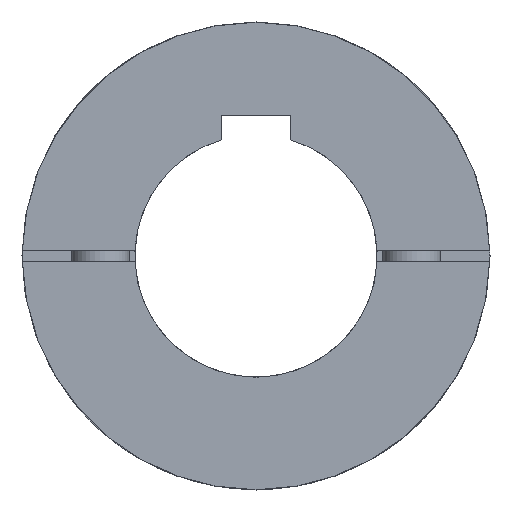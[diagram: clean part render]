
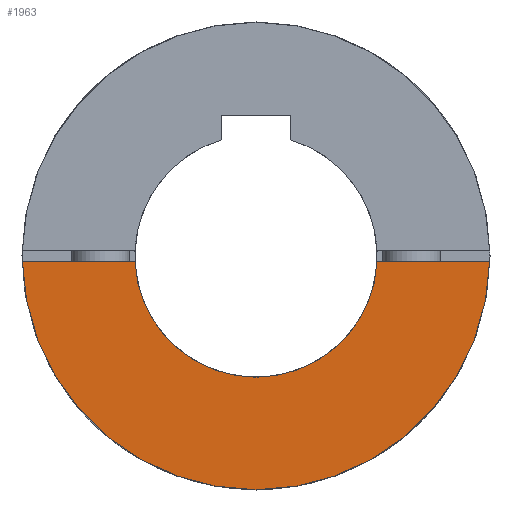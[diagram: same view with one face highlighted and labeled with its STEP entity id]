
A CAD part, left-side view. The second image highlights one B-rep face of the part: STEP entity #1963.
In plain terms, the highlighted planar face has unit normal (-1, 0, 0).
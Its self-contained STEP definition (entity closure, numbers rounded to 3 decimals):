
#24=PLANE('',#2224);
#199=LINE('',#3612,#342);
#202=LINE('',#3618,#345);
#342=VECTOR('',#2695,33.559);
#345=VECTOR('',#2700,33.559);
#505=FACE_OUTER_BOUND('',#631,.T.);
#631=EDGE_LOOP('',(#1592,#1593,#1594,#1595));
#855=CIRCLE('',#2213,21.);
#857=CIRCLE('',#2225,40.5);
#989=VERTEX_POINT('',#3567);
#990=VERTEX_POINT('',#3568);
#1001=VERTEX_POINT('',#3611);
#1003=VERTEX_POINT('',#3617);
#1221=EDGE_CURVE('',#989,#990,#855,.T.);
#1244=EDGE_CURVE('',#1001,#989,#199,.T.);
#1247=EDGE_CURVE('',#1003,#990,#202,.T.);
#1248=EDGE_CURVE('',#1003,#1001,#857,.T.);
#1592=ORIENTED_EDGE('',*,*,#1221,.T.);
#1593=ORIENTED_EDGE('',*,*,#1247,.F.);
#1594=ORIENTED_EDGE('',*,*,#1248,.T.);
#1595=ORIENTED_EDGE('',*,*,#1244,.T.);
#1963=ADVANCED_FACE('',(#505),#24,.T.);
#2213=AXIS2_PLACEMENT_3D('',#3569,#2652,#2653);
#2224=AXIS2_PLACEMENT_3D('',#3616,#2698,#2699);
#2225=AXIS2_PLACEMENT_3D('',#3619,#2701,#2702);
#2652=DIRECTION('center_axis',(1.,0.,0.));
#2653=DIRECTION('ref_axis',(0.,0.,1.));
#2695=DIRECTION('',(0.,1.,0.));
#2698=DIRECTION('center_axis',(-1.,0.,0.));
#2699=DIRECTION('ref_axis',(0.,-1.,0.));
#2700=DIRECTION('',(0.,-1.,0.));
#2701=DIRECTION('center_axis',(-1.,0.,0.));
#2702=DIRECTION('ref_axis',(0.,1.,0.));
#3567=CARTESIAN_POINT('',(0.,-20.976,-1.));
#3568=CARTESIAN_POINT('',(0.,20.976,-1.));
#3569=CARTESIAN_POINT('Origin',(0.,0.,0.));
#3611=CARTESIAN_POINT('',(0.,-40.488,-1.));
#3612=CARTESIAN_POINT('',(0.,-40.488,-1.));
#3616=CARTESIAN_POINT('Origin',(0.,0.,-7.));
#3617=CARTESIAN_POINT('',(0.,40.488,-1.));
#3618=CARTESIAN_POINT('',(0.,40.488,-1.));
#3619=CARTESIAN_POINT('Origin',(0.,0.,0.));
